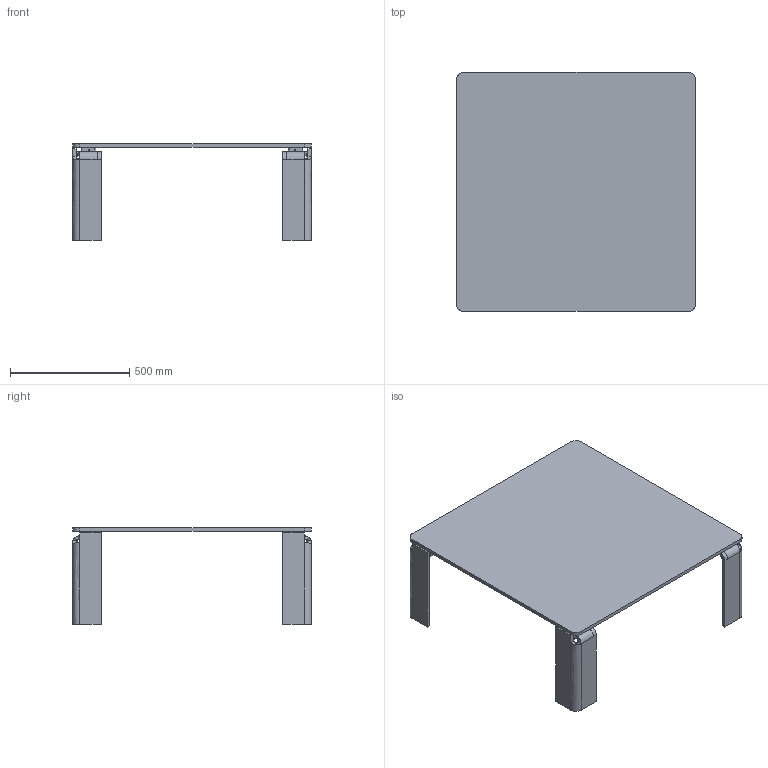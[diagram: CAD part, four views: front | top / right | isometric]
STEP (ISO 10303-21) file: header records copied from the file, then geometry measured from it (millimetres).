
FILE_DESCRIPTION(/* description */ (''),/* implementation_level */ '2;1');
FILE_NAME(/* name */ '106 - Newton 100x100 H40',/* time_stamp */ '2012-06-20T14:45:22+02:00',/* author */ (''),/* organization */ (''),/* preprocessor_version */ 'ST-DEVELOPER v10',/* originating_system */ '',/* authorisation */ '');
FILE_SCHEMA (('CONFIG_CONTROL_DESIGN'));
Length unit declared in the file: millimetre
Products named in the file (1): 1
Bounding box: 1000 x 1000 x 404 mm (x, y, z)
Volume: 20668537.9 mm3; surface area: 2962988.2 mm2
Topology: 17 solids, 17 shells, 230 faces, 532 edges, 328 vertices
Faces by surface type: bspline 128, plane 102
Entity records: 8608 total; most frequent: CARTESIAN_POINT 5128, ORIENTED_EDGE 1048, EDGE_CURVE 524, B_SPLINE_CURVE_WITH_KNOTS 372, VERTEX_POINT 328, EDGE_LOOP 254, ADVANCED_FACE 230, FACE_OUTER_BOUND 230
